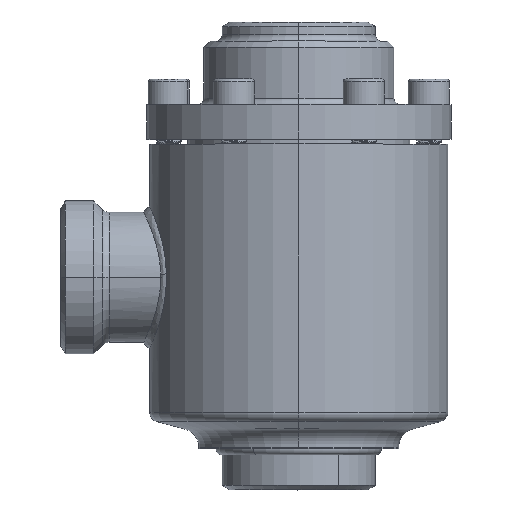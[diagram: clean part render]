
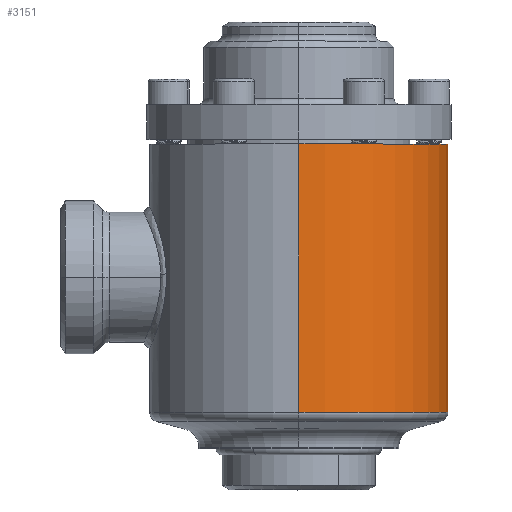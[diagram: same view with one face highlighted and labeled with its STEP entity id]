
A CAD part, top view. The second image highlights one B-rep face of the part: STEP entity #3151.
In plain terms, the highlighted cylindrical face has radius 47 mm (diameter 94 mm), a partial arc.
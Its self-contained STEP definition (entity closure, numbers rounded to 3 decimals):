
#16625 = CIRCLE ( 'NONE', #16626, 47. ) ;
#16626 = AXIS2_PLACEMENT_3D ( 'NONE', #16627, #16644, #16645 ) ;
#16627 = CARTESIAN_POINT ( 'NONE',  ( 0., -4.017, 0. ) ) ;
#16644 = DIRECTION ( 'NONE',  ( 0., 1., 0. ) ) ;
#16645 = DIRECTION ( 'NONE',  ( 0., 0., 1. ) ) ;
#865 = CARTESIAN_POINT ( 'NONE',  ( 0., 80.527, 47. ) ) ;
#1193 = CIRCLE ( 'NONE', #1194, 47. ) ;
#1194 = AXIS2_PLACEMENT_3D ( 'NONE', #1195, #1196, #1197 ) ;
#1195 = CARTESIAN_POINT ( 'NONE',  ( 0., 80.527, 0. ) ) ;
#1196 = DIRECTION ( 'NONE',  ( 0., 1., 0. ) ) ;
#1197 = DIRECTION ( 'NONE',  ( 0., 0., 1. ) ) ;
#1309 = VERTEX_POINT ( 'NONE', #15812 ) ;
#1491 = VERTEX_POINT ( 'NONE', #16070 ) ;
#1530 = EDGE_CURVE ( 'NONE', #2589, #1309, #16105, .T. ) ;
#1710 = EDGE_CURVE ( 'NONE', #1491, #2589, #16625, .T. ) ;
#1900 = ORIENTED_EDGE ( 'NONE', *, *, #1530, .T. ) ;
#2405 = ORIENTED_EDGE ( 'NONE', *, *, #1710, .T. ) ;
#2589 = VERTEX_POINT ( 'NONE', #19094 ) ;
#19094 = CARTESIAN_POINT ( 'NONE',  ( 0., -4.017, -47. ) ) ;
#2915 = EDGE_LOOP ( 'NONE', ( #2405, #1900, #15544, #13562 ) ) ;
#3151 = ADVANCED_FACE ( 'NONE', ( #19907 ), #19908, .T. ) ;
#19907 = FACE_OUTER_BOUND ( 'NONE', #2915, .T. ) ;
#19908 = CYLINDRICAL_SURFACE ( 'NONE', #19909, 47. ) ;
#19909 = AXIS2_PLACEMENT_3D ( 'NONE', #19910, #19911, #19912 ) ;
#19910 = CARTESIAN_POINT ( 'NONE',  ( 0., 76.795, 0. ) ) ;
#19911 = DIRECTION ( 'NONE',  ( 0., 1., 0. ) ) ;
#19912 = DIRECTION ( 'NONE',  ( 0., 0., 1. ) ) ;
#21636 = LINE ( 'NONE', #21637, #21638 ) ;
#21637 = CARTESIAN_POINT ( 'NONE',  ( 0., 76.795, 47. ) ) ;
#21638 = VECTOR ( 'NONE', #21639, 1000. ) ;
#21639 = DIRECTION ( 'NONE',  ( 0., 1., 0. ) ) ;
#12965 = EDGE_CURVE ( 'NONE', #1491, #14515, #21636, .T. ) ;
#13562 = ORIENTED_EDGE ( 'NONE', *, *, #12965, .F. ) ;
#14515 = VERTEX_POINT ( 'NONE', #865 ) ;
#14927 = EDGE_CURVE ( 'NONE', #14515, #1309, #1193, .T. ) ;
#15544 = ORIENTED_EDGE ( 'NONE', *, *, #14927, .F. ) ;
#15812 = CARTESIAN_POINT ( 'NONE',  ( 0., 80.527, -47. ) ) ;
#16070 = CARTESIAN_POINT ( 'NONE',  ( 0., -4.017, 47. ) ) ;
#16105 = LINE ( 'NONE', #16106, #16107 ) ;
#16106 = CARTESIAN_POINT ( 'NONE',  ( 0., 76.795, -47. ) ) ;
#16107 = VECTOR ( 'NONE', #16108, 1000. ) ;
#16108 = DIRECTION ( 'NONE',  ( 0., 1., 0. ) ) ;
